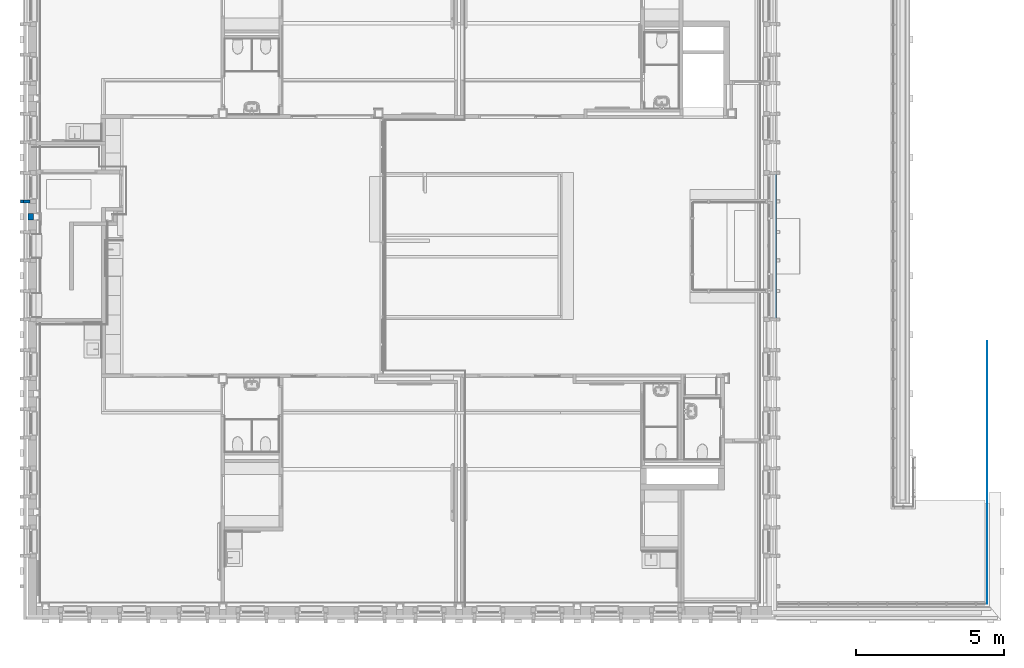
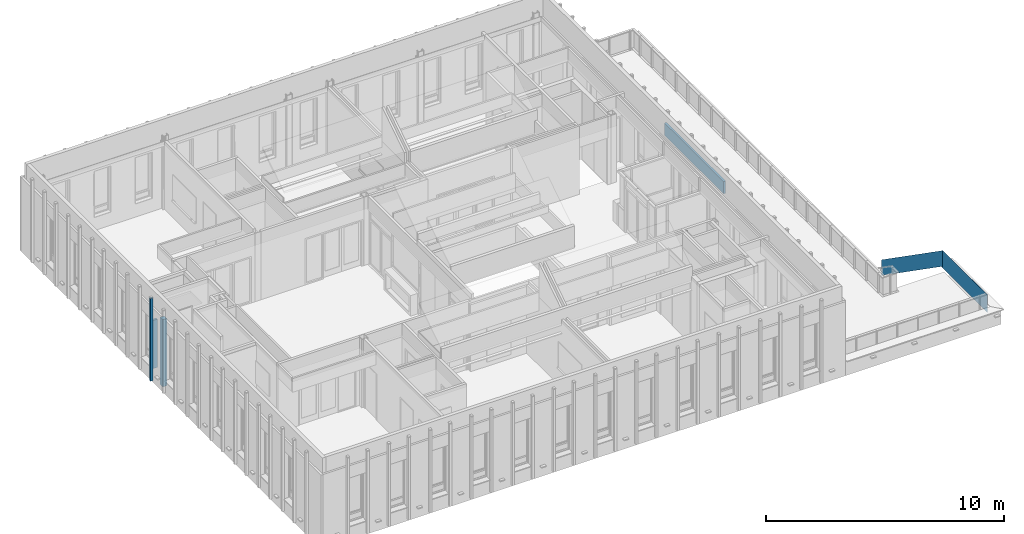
# One storey, part 47 of 118: 6 walls, 10 openings.
"""IFC2X3 building model written with IfcOpenShell, lengths in millimetres."""

from ifc_helpers import new_model, entity, si_unit, converted_unit, derived_unit, direction, frame, frame_2d, origin, place, context, subcontext, project, spatial, polyline, rectangle, outline, extrude, clip, halfspace, faceted_brep, material, layer, layer_set, layer_usage, type_object, element, save


model = new_model("IFC2X3")

# Units and contexts
model_context = context("Model", 3, precision=0.01, world=origin(), true_north=direction((6.123031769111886e-17, 1.0)))
plan_context = context("Plan", 3, precision=0.01, world=origin(), true_north=direction((6.123031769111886e-17, 1.0)))
body_context = subcontext(model_context, "Body", "Model", "MODEL_VIEW")
ifc_project = project(units=[si_unit("LENGTHUNIT", "METRE", prefix="MILLI"), si_unit("AREAUNIT", "SQUARE_METRE"), si_unit("VOLUMEUNIT", "CUBIC_METRE"), converted_unit("PLANEANGLEUNIT", "DEGREE", entity("IfcRatioMeasure", 0.017453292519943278), si_unit("PLANEANGLEUNIT", "RADIAN"), dimensions=[0, 0, 0, 0, 0, 0, 0]), si_unit("MASSUNIT", "GRAM", prefix="KILO"), derived_unit("MASSDENSITYUNIT", [(si_unit("MASSUNIT", "GRAM", prefix="KILO"), 1), (si_unit("LENGTHUNIT", "METRE"), -3)]), derived_unit("IONCONCENTRATIONUNIT", [(si_unit("MASSUNIT", "GRAM", prefix="KILO"), 1), (si_unit("LENGTHUNIT", "METRE"), -3)]), derived_unit("MOMENTOFINERTIAUNIT", [(si_unit("LENGTHUNIT", "METRE"), 4)]), si_unit("TIMEUNIT", "SECOND"), si_unit("FREQUENCYUNIT", "HERTZ"), si_unit("THERMODYNAMICTEMPERATUREUNIT", "DEGREE_CELSIUS"), derived_unit("THERMALTRANSMITTANCEUNIT", [(si_unit("MASSUNIT", "GRAM", prefix="KILO"), 1), (si_unit("THERMODYNAMICTEMPERATUREUNIT", "KELVIN"), -1), (si_unit("TIMEUNIT", "SECOND"), -3)]), derived_unit("THERMALCONDUCTANCEUNIT", [(si_unit("MASSUNIT", "GRAM", prefix="KILO"), 1), (si_unit("THERMODYNAMICTEMPERATUREUNIT", "KELVIN"), -1), (si_unit("TIMEUNIT", "SECOND"), -3), (si_unit("LENGTHUNIT", "METRE"), 1)]), derived_unit("VOLUMETRICFLOWRATEUNIT", [(si_unit("LENGTHUNIT", "METRE"), 3), (si_unit("TIMEUNIT", "SECOND"), -1)]), derived_unit("MASSFLOWRATEUNIT", [(si_unit("MASSUNIT", "GRAM", prefix="KILO"), 1), (si_unit("TIMEUNIT", "SECOND"), -1)]), derived_unit("ROTATIONALFREQUENCYUNIT", [(si_unit("TIMEUNIT", "SECOND"), -1)]), si_unit("ELECTRICCURRENTUNIT", "AMPERE"), si_unit("ELECTRICVOLTAGEUNIT", "VOLT"), si_unit("POWERUNIT", "WATT"), si_unit("FORCEUNIT", "NEWTON", prefix="KILO"), si_unit("ILLUMINANCEUNIT", "LUX"), si_unit("LUMINOUSFLUXUNIT", "LUMEN"), si_unit("LUMINOUSINTENSITYUNIT", "CANDELA"), derived_unit("USERDEFINED", [(si_unit("MASSUNIT", "GRAM", prefix="KILO"), -1), (si_unit("LENGTHUNIT", "METRE"), -2), (si_unit("TIMEUNIT", "SECOND"), 3), (si_unit("LUMINOUSFLUXUNIT", "LUMEN"), 1)]), derived_unit("USERDEFINED", [(si_unit("MASSUNIT", "GRAM", prefix="KILO"), 1), (si_unit("TIMEUNIT", "SECOND"), -3), (si_unit("LENGTHUNIT", "METRE"), 3), (si_unit("ELECTRICCURRENTUNIT", "AMPERE"), -2)]), derived_unit("SOUNDPOWERUNIT", [(si_unit("MASSUNIT", "GRAM", prefix="KILO"), 1), (si_unit("TIMEUNIT", "SECOND"), -3), (si_unit("LENGTHUNIT", "METRE"), 2)]), derived_unit("SOUNDPRESSUREUNIT", [(si_unit("MASSUNIT", "GRAM", prefix="KILO"), 1), (si_unit("LENGTHUNIT", "METRE"), -1), (si_unit("TIMEUNIT", "SECOND"), -2)]), derived_unit("LINEARVELOCITYUNIT", [(si_unit("LENGTHUNIT", "METRE"), 1), (si_unit("TIMEUNIT", "SECOND"), -1)]), si_unit("PRESSUREUNIT", "PASCAL"), derived_unit("USERDEFINED", [(si_unit("MASSUNIT", "GRAM", prefix="KILO"), 1), (si_unit("LENGTHUNIT", "METRE"), -2), (si_unit("TIMEUNIT", "SECOND"), -2)]), derived_unit("LINEARFORCEUNIT", [(si_unit("MASSUNIT", "GRAM", prefix="KILO"), 1), (si_unit("TIMEUNIT", "SECOND"), -2)]), derived_unit("PLANARFORCEUNIT", [(si_unit("MASSUNIT", "GRAM", prefix="KILO"), 1), (si_unit("LENGTHUNIT", "METRE"), -1), (si_unit("TIMEUNIT", "SECOND"), -2)]), derived_unit("SPECIFICHEATCAPACITYUNIT", [(si_unit("THERMODYNAMICTEMPERATUREUNIT", "KELVIN"), -1), (si_unit("LENGTHUNIT", "METRE"), 2), (si_unit("TIMEUNIT", "SECOND"), -2)]), derived_unit("HEATINGVALUEUNIT", [(si_unit("LENGTHUNIT", "METRE"), 2), (si_unit("TIMEUNIT", "SECOND"), -2)]), derived_unit("VAPORPERMEABILITYUNIT", [(si_unit("LENGTHUNIT", "METRE"), -1), (si_unit("TIMEUNIT", "SECOND"), 1)]), derived_unit("DYNAMICVISCOSITYUNIT", [(si_unit("MASSUNIT", "GRAM", prefix="KILO"), 1), (si_unit("TIMEUNIT", "SECOND"), -1), (si_unit("LENGTHUNIT", "METRE"), -1)]), derived_unit("THERMALEXPANSIONCOEFFICIENTUNIT", [(si_unit("THERMODYNAMICTEMPERATUREUNIT", "KELVIN"), -1)]), derived_unit("MODULUSOFELASTICITYUNIT", [(si_unit("MASSUNIT", "GRAM", prefix="KILO"), 1), (si_unit("LENGTHUNIT", "METRE"), -1), (si_unit("TIMEUNIT", "SECOND"), -2)]), derived_unit("ISOTHERMALMOISTURECAPACITYUNIT", [(si_unit("LENGTHUNIT", "METRE"), 3), (si_unit("MASSUNIT", "GRAM", prefix="KILO"), -1)]), derived_unit("MOISTUREDIFFUSIVITYUNIT", [(si_unit("TIMEUNIT", "SECOND"), -1), (si_unit("LENGTHUNIT", "METRE"), 2)])], contexts=[model_context, plan_context])

# Site, building, storey
site_placement = place(None, origin())
site = spatial("IfcSite", under=ifc_project, at=site_placement, Name="Locatie", CompositionType="ELEMENT")
building_placement = place(site_placement, origin())
building = spatial("IfcBuilding", under=site, at=building_placement, Name="Bouwwerk", CompositionType="ELEMENT")
storey_placement = place(building_placement, frame((0.0, 0.0, 7800.0)))
storey = spatial("IfcBuildingStorey", under=building, at=storey_placement, Name="02 tweede verdieping", CompositionType="ELEMENT", Elevation=7800.000000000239)

# Walls
ifc_material_1 = material(Name="g2_metselwerk_geel licht")
ifc_layer_1 = layer(ifc_material_1, 100.0)
ifc_layer_set_1 = layer_set([ifc_layer_1], Name="Basic Wall:21_WA_metselwerk_licht_100_gen_bdg")
ifc_layer_usage_1 = layer_usage(ifc_layer_set_1, "AXIS2", "POSITIVE", -50.0)
wall_type_1 = type_object("IfcWallType", Name="Basic Wall:21_WA_metselwerk_licht_100_gen_bdg", PredefinedType="STANDARD", material=ifc_layer_set_1)
wall_1_placement = place(storey_placement, frame((9770.0, 23718.0, 603.0), z_axis=(0.0, 0.0, 1.0), x_axis=(-1.0, 0.0, 0.0)))
element("IfcWallStandardCase", 1, at=wall_1_placement, inside=storey, type_object=wall_type_1, material=ifc_layer_usage_1, Name="Basic Wall:21_WA_metselwerk_licht_100_gen_bdg", ObjectType="Basic Wall:21_WA_metselwerk_licht_100_gen_bdg", context=body_context, shape_type="SweptSolid", body=[
    extrude(rectangle(XDim=210.00000000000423, YDim=100.00000000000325, at=frame_2d((105.00000000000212, 1.0196288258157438e-12), x_axis=(-1.0, 0.0))), origin(), (0.0, 0.0, 1.0), 2471.999999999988),
])
wall_2_placement = place(storey_placement, frame((9560.0, 23718.0, 0.0), z_axis=(0.0, 0.0, 1.0), x_axis=(-1.0, 0.0, 0.0)))
element("IfcWallStandardCase", 2, at=wall_2_placement, inside=storey, type_object=wall_type_1, material=ifc_layer_usage_1, Name="Basic Wall:21_WA_metselwerk_licht_100_gen_bdg", ObjectType="Basic Wall:21_WA_metselwerk_licht_100_gen_bdg", context=body_context, shape_type="SweptSolid", body=[
    extrude(rectangle(XDim=114.99999999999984, YDim=100.00000000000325, at=frame_2d((57.49999999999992, 1.2434497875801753e-12), x_axis=(-1.0, 0.0))), origin(), (0.0, 0.0, 1.0), 4231.99999999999),
])

# Wall, openings
ifc_layer_usage_2 = layer_usage(ifc_layer_set_1, "AXIS2", "NEGATIVE", 50.0)
wall_3_placement = place(storey_placement, frame((34990.0, 24682.0, 3075.0), z_axis=(0.0, 0.0, 1.0), x_axis=(0.0, -1.0, 0.0)))
wall_3 = element("IfcWallStandardCase", 3, at=wall_3_placement, inside=storey, type_object=wall_type_1, material=ifc_layer_usage_2, Name="Basic Wall:21_WA_metselwerk_licht_100_gen_bdg", ObjectType="Basic Wall:21_WA_metselwerk_licht_100_gen_bdg", context=body_context, shape_type="SweptSolid", body=[
    extrude(rectangle(XDim=4964.000000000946, YDim=100.00000000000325, at=frame_2d((2482.000000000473, 3.979039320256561e-13), x_axis=(-1.0, 0.0))), origin(), (0.0, 0.0, 1.0), 625.0000000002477),
])
opening_1_placement = place(wall_3_placement, frame((5038.0, -390.0, -2889.0)))
element("IfcOpeningElement", 4, at=opening_1_placement, cuts=wall_3, Name="Basic Wall:21_WA_metselwerk_licht_100_gen_bdg", ObjectType="Opening", context=body_context, shape_type="Brep", body=[
    faceted_brep([(-24.0, 340.0, 2884.0), (-103.0, 340.0, 2884.0), (-103.0, 340.0, 42.0), (-5009.0, 340.0, 42.0), (-5009.0, 340.0, 2884.0), (-5088.0, 340.0, 2884.0), (-5088.0, 340.0, 0.0), (-24.0, 340.0, 0.0), (-5088.0, 640.0, 2884.0), (-24.0, 640.0, 2884.0), (-24.0, 640.0, 0.0), (-5088.0, 640.0, 0.0), (-5112.0, 25.0, 3011.0), (-5112.0, 25.0, 62.0), (0.0, 25.0, 62.0), (0.0, 25.0, 3011.0), (-4964.0, 25.0, 2860.0), (-148.0, 25.0, 2860.0), (-148.0, 25.0, 87.0), (-4964.0, 25.0, 87.0), (-5112.0, 300.0, 3011.0), (0.0, 300.0, 3011.0), (0.0, 300.0, 62.0), (-103.0, 300.0, 62.0), (-103.0, 300.0, 2925.0), (-5009.0, 300.0, 2925.0), (-5009.0, 300.0, 62.0), (-5112.0, 300.0, 62.0), (-103.0, 300.0, 42.0), (-5009.0, 300.0, 42.0), (-103.0, 340.0, 2925.0), (-5009.0, 340.0, 2925.0), (-4964.0, 0.0, 2860.0), (-4964.0, 0.0, 87.0), (-148.0, 0.0, 87.0), (-148.0, 0.0, 2860.0)], [[[0, 1, 2, 3, 4, 5, 6, 7]], [[8, 9, 10, 11]], [[5, 8, 11, 6]], [[6, 11, 10, 7]], [[7, 10, 9, 0]], [[8, 5, 4, 1, 0, 9]], [[12, 13, 14, 15], [16, 17, 18, 19]], [[20, 21, 22, 23, 24, 25, 26, 27]], [[12, 20, 27, 13]], [[13, 27, 26, 23, 22, 14]], [[14, 22, 21, 15]], [[15, 21, 20, 12]], [[28, 23, 26, 29]], [[30, 1, 4, 31]], [[29, 26, 25, 31, 4, 3]], [[29, 3, 2, 28]], [[2, 1, 30, 24, 23, 28]], [[31, 25, 24, 30]], [[32, 33, 34, 35]], [[32, 16, 19, 33]], [[33, 19, 18, 34]], [[34, 18, 17, 35]], [[35, 17, 16, 32]]]),
])
opening_2_placement = place(wall_3_placement, frame((13038.0, -565.0, -2472.0)))
element("IfcOpeningElement", 5, at=opening_2_placement, cuts=wall_3, Name="Basic Wall:21_WA_metselwerk_licht_100_gen_bdg", ObjectType="Opening", context=body_context, shape_type="Brep", body=[
    faceted_brep([(-24.0, 515.0, 2472.0), (-103.0, 515.0, 2472.0), (-103.0, 515.0, 42.0), (-1009.0, 515.0, 42.0), (-1009.0, 515.0, 2472.0), (-1088.0, 515.0, 2472.0), (-1088.0, 515.0, 0.0), (-24.0, 515.0, 0.0), (-1088.0, 615.0, 2472.0), (-24.0, 615.0, 2472.0), (-24.0, 615.0, 0.0), (-1088.0, 615.0, 0.0), (-1112.0, 200.0, 2594.0), (-1112.0, 200.0, 11.0), (0.0, 200.0, 11.0), (0.0, 200.0, 2594.0), (-964.0, 200.0, 2443.0), (-148.0, 200.0, 2443.0), (-148.0, 200.0, 87.0), (-964.0, 200.0, 87.0), (-1112.0, 475.0, 2594.0), (0.0, 475.0, 2594.0), (0.0, 475.0, 11.0), (-1112.0, 475.0, 11.0), (-1009.0, 475.0, 42.0), (-103.0, 475.0, 42.0), (-103.0, 475.0, 2508.0), (-1009.0, 475.0, 2508.0), (-103.0, 515.0, 2508.0), (-1009.0, 515.0, 2508.0), (-964.0, 0.0, 2443.0), (-964.0, 0.0, 87.0), (-148.0, 0.0, 87.0), (-148.0, 0.0, 2443.0)], [[[0, 1, 2, 3, 4, 5, 6, 7]], [[8, 9, 10, 11]], [[5, 8, 11, 6]], [[6, 11, 10, 7]], [[7, 10, 9, 0]], [[8, 5, 4, 1, 0, 9]], [[12, 13, 14, 15], [16, 17, 18, 19]], [[20, 21, 22, 23], [24, 25, 26, 27]], [[12, 20, 23, 13]], [[13, 23, 22, 14]], [[14, 22, 21, 15]], [[15, 21, 20, 12]], [[28, 1, 4, 29]], [[24, 27, 29, 4, 3]], [[3, 2, 25, 24]], [[2, 1, 28, 26, 25]], [[29, 27, 26, 28]], [[30, 31, 32, 33]], [[30, 16, 19, 31]], [[31, 19, 18, 32]], [[32, 18, 17, 33]], [[33, 17, 16, 30]]]),
])
opening_3_placement = place(wall_3_placement, frame((11038.0, -565.0, -2472.0)))
element("IfcOpeningElement", 6, at=opening_3_placement, cuts=wall_3, Name="Basic Wall:21_WA_metselwerk_licht_100_gen_bdg", ObjectType="Opening", context=body_context, shape_type="Brep", body=[
    faceted_brep([(-24.0, 515.0, 2472.0), (-103.0, 515.0, 2472.0), (-103.0, 515.0, 42.0), (-1009.0, 515.0, 42.0), (-1009.0, 515.0, 2472.0), (-1088.0, 515.0, 2472.0), (-1088.0, 515.0, 0.0), (-24.0, 515.0, 0.0), (-1088.0, 615.0, 2472.0), (-24.0, 615.0, 2472.0), (-24.0, 615.0, 0.0), (-1088.0, 615.0, 0.0), (-1112.0, 200.0, 2594.0), (-1112.0, 200.0, 11.0), (0.0, 200.0, 11.0), (0.0, 200.0, 2594.0), (-964.0, 200.0, 2443.0), (-148.0, 200.0, 2443.0), (-148.0, 200.0, 87.0), (-964.0, 200.0, 87.0), (-1112.0, 475.0, 2594.0), (0.0, 475.0, 2594.0), (0.0, 475.0, 11.0), (-1112.0, 475.0, 11.0), (-1009.0, 475.0, 42.0), (-103.0, 475.0, 42.0), (-103.0, 475.0, 2508.0), (-1009.0, 475.0, 2508.0), (-103.0, 515.0, 2508.0), (-1009.0, 515.0, 2508.0), (-964.0, 0.0, 2443.0), (-964.0, 0.0, 87.0), (-148.0, 0.0, 87.0), (-148.0, 0.0, 2443.0)], [[[0, 1, 2, 3, 4, 5, 6, 7]], [[8, 9, 10, 11]], [[5, 8, 11, 6]], [[6, 11, 10, 7]], [[7, 10, 9, 0]], [[8, 5, 4, 1, 0, 9]], [[12, 13, 14, 15], [16, 17, 18, 19]], [[20, 21, 22, 23], [24, 25, 26, 27]], [[12, 20, 23, 13]], [[13, 23, 22, 14]], [[14, 22, 21, 15]], [[15, 21, 20, 12]], [[28, 1, 4, 29]], [[24, 27, 29, 4, 3]], [[3, 2, 25, 24]], [[2, 1, 28, 26, 25]], [[29, 27, 26, 28]], [[30, 31, 32, 33]], [[30, 16, 19, 31]], [[31, 19, 18, 32]], [[32, 18, 17, 33]], [[33, 17, 16, 30]]]),
])
opening_4_placement = place(wall_3_placement, frame((9038.0, -565.0, -2472.0)))
element("IfcOpeningElement", 7, at=opening_4_placement, cuts=wall_3, Name="Basic Wall:21_WA_metselwerk_licht_100_gen_bdg", ObjectType="Opening", context=body_context, shape_type="Brep", body=[
    faceted_brep([(-24.0, 515.0, 2472.0), (-103.0, 515.0, 2472.0), (-103.0, 515.0, 42.0), (-1009.0, 515.0, 42.0), (-1009.0, 515.0, 2472.0), (-1088.0, 515.0, 2472.0), (-1088.0, 515.0, 0.0), (-24.0, 515.0, 0.0), (-1088.0, 615.0, 2472.0), (-24.0, 615.0, 2472.0), (-24.0, 615.0, 0.0), (-1088.0, 615.0, 0.0), (-1112.0, 200.0, 2594.0), (-1112.0, 200.0, 11.0), (0.0, 200.0, 11.0), (0.0, 200.0, 2594.0), (-964.0, 200.0, 2443.0), (-148.0, 200.0, 2443.0), (-148.0, 200.0, 87.0), (-964.0, 200.0, 87.0), (-1112.0, 475.0, 2594.0), (0.0, 475.0, 2594.0), (0.0, 475.0, 11.0), (-1112.0, 475.0, 11.0), (-1009.0, 475.0, 42.0), (-103.0, 475.0, 42.0), (-103.0, 475.0, 2508.0), (-1009.0, 475.0, 2508.0), (-103.0, 515.0, 2508.0), (-1009.0, 515.0, 2508.0), (-964.0, 0.0, 2443.0), (-964.0, 0.0, 87.0), (-148.0, 0.0, 87.0), (-148.0, 0.0, 2443.0)], [[[0, 1, 2, 3, 4, 5, 6, 7]], [[8, 9, 10, 11]], [[5, 8, 11, 6]], [[6, 11, 10, 7]], [[7, 10, 9, 0]], [[8, 5, 4, 1, 0, 9]], [[12, 13, 14, 15], [16, 17, 18, 19]], [[20, 21, 22, 23], [24, 25, 26, 27]], [[12, 20, 23, 13]], [[13, 23, 22, 14]], [[14, 22, 21, 15]], [[15, 21, 20, 12]], [[28, 1, 4, 29]], [[24, 27, 29, 4, 3]], [[3, 2, 25, 24]], [[2, 1, 28, 26, 25]], [[29, 27, 26, 28]], [[30, 31, 32, 33]], [[30, 16, 19, 31]], [[31, 19, 18, 32]], [[32, 18, 17, 33]], [[33, 17, 16, 30]]]),
])
opening_5_placement = place(wall_3_placement, frame((7038.0, -565.0, -2472.0)))
element("IfcOpeningElement", 8, at=opening_5_placement, cuts=wall_3, Name="Basic Wall:21_WA_metselwerk_licht_100_gen_bdg", ObjectType="Opening", context=body_context, shape_type="Brep", body=[
    faceted_brep([(-24.0, 515.0, 2472.0), (-103.0, 515.0, 2472.0), (-103.0, 515.0, 42.0), (-1009.0, 515.0, 42.0), (-1009.0, 515.0, 2472.0), (-1088.0, 515.0, 2472.0), (-1088.0, 515.0, 0.0), (-24.0, 515.0, 0.0), (-1088.0, 615.0, 2472.0), (-24.0, 615.0, 2472.0), (-24.0, 615.0, 0.0), (-1088.0, 615.0, 0.0), (-1112.0, 200.0, 2594.0), (-1112.0, 200.0, 11.0), (0.0, 200.0, 11.0), (0.0, 200.0, 2594.0), (-964.0, 200.0, 2443.0), (-148.0, 200.0, 2443.0), (-148.0, 200.0, 87.0), (-964.0, 200.0, 87.0), (-1112.0, 475.0, 2594.0), (0.0, 475.0, 2594.0), (0.0, 475.0, 11.0), (-1112.0, 475.0, 11.0), (-1009.0, 475.0, 42.0), (-103.0, 475.0, 42.0), (-103.0, 475.0, 2508.0), (-1009.0, 475.0, 2508.0), (-103.0, 515.0, 2508.0), (-1009.0, 515.0, 2508.0), (-964.0, 0.0, 2443.0), (-964.0, 0.0, 87.0), (-148.0, 0.0, 87.0), (-148.0, 0.0, 2443.0)], [[[0, 1, 2, 3, 4, 5, 6, 7]], [[8, 9, 10, 11]], [[5, 8, 11, 6]], [[6, 11, 10, 7]], [[7, 10, 9, 0]], [[8, 5, 4, 1, 0, 9]], [[12, 13, 14, 15], [16, 17, 18, 19]], [[20, 21, 22, 23], [24, 25, 26, 27]], [[12, 20, 23, 13]], [[13, 23, 22, 14]], [[14, 22, 21, 15]], [[15, 21, 20, 12]], [[28, 1, 4, 29]], [[24, 27, 29, 4, 3]], [[3, 2, 25, 24]], [[2, 1, 28, 26, 25]], [[29, 27, 26, 28]], [[30, 31, 32, 33]], [[30, 16, 19, 31]], [[31, 19, 18, 32]], [[32, 18, 17, 33]], [[33, 17, 16, 30]]]),
])
opening_6_placement = place(wall_3_placement, frame((-962.0, -565.0, -2472.0)))
element("IfcOpeningElement", 9, at=opening_6_placement, cuts=wall_3, Name="Basic Wall:21_WA_metselwerk_licht_100_gen_bdg", ObjectType="Opening", context=body_context, shape_type="Brep", body=[
    faceted_brep([(-24.0, 515.0, 2472.0), (-103.0, 515.0, 2472.0), (-103.0, 515.0, 42.0), (-1009.0, 515.0, 42.0), (-1009.0, 515.0, 2472.0), (-1088.0, 515.0, 2472.0), (-1088.0, 515.0, 0.0), (-24.0, 515.0, 0.0), (-1088.0, 615.0, 2472.0), (-24.0, 615.0, 2472.0), (-24.0, 615.0, 0.0), (-1088.0, 615.0, 0.0), (-1112.0, 200.0, 2594.0), (-1112.0, 200.0, 11.0), (0.0, 200.0, 11.0), (0.0, 200.0, 2594.0), (-964.0, 200.0, 2443.0), (-148.0, 200.0, 2443.0), (-148.0, 200.0, 87.0), (-964.0, 200.0, 87.0), (-1112.0, 475.0, 2594.0), (0.0, 475.0, 2594.0), (0.0, 475.0, 11.0), (-1112.0, 475.0, 11.0), (-1009.0, 475.0, 42.0), (-103.0, 475.0, 42.0), (-103.0, 475.0, 2508.0), (-1009.0, 475.0, 2508.0), (-103.0, 515.0, 2508.0), (-1009.0, 515.0, 2508.0), (-964.0, 0.0, 2443.0), (-964.0, 0.0, 87.0), (-148.0, 0.0, 87.0), (-148.0, 0.0, 2443.0)], [[[0, 1, 2, 3, 4, 5, 6, 7]], [[8, 9, 10, 11]], [[5, 8, 11, 6]], [[6, 11, 10, 7]], [[7, 10, 9, 0]], [[8, 5, 4, 1, 0, 9]], [[12, 13, 14, 15], [16, 17, 18, 19]], [[20, 21, 22, 23], [24, 25, 26, 27]], [[12, 20, 23, 13]], [[13, 23, 22, 14]], [[14, 22, 21, 15]], [[15, 21, 20, 12]], [[28, 1, 4, 29]], [[24, 27, 29, 4, 3]], [[3, 2, 25, 24]], [[2, 1, 28, 26, 25]], [[29, 27, 26, 28]], [[30, 31, 32, 33]], [[30, 16, 19, 31]], [[31, 19, 18, 32]], [[32, 18, 17, 33]], [[33, 17, 16, 30]]]),
])
opening_7_placement = place(wall_3_placement, frame((-2962.0, -565.0, -2472.0)))
element("IfcOpeningElement", 10, at=opening_7_placement, cuts=wall_3, Name="Basic Wall:21_WA_metselwerk_licht_100_gen_bdg", ObjectType="Opening", context=body_context, shape_type="Brep", body=[
    faceted_brep([(-24.0, 515.0, 2472.0), (-103.0, 515.0, 2472.0), (-103.0, 515.0, 42.0), (-1009.0, 515.0, 42.0), (-1009.0, 515.0, 2472.0), (-1088.0, 515.0, 2472.0), (-1088.0, 515.0, 0.0), (-24.0, 515.0, 0.0), (-1088.0, 615.0, 2472.0), (-24.0, 615.0, 2472.0), (-24.0, 615.0, 0.0), (-1088.0, 615.0, 0.0), (-1112.0, 200.0, 2594.0), (-1112.0, 200.0, 11.0), (0.0, 200.0, 11.0), (0.0, 200.0, 2594.0), (-964.0, 200.0, 2443.0), (-148.0, 200.0, 2443.0), (-148.0, 200.0, 87.0), (-964.0, 200.0, 87.0), (-1112.0, 475.0, 2594.0), (0.0, 475.0, 2594.0), (0.0, 475.0, 11.0), (-1112.0, 475.0, 11.0), (-1009.0, 475.0, 42.0), (-103.0, 475.0, 42.0), (-103.0, 475.0, 2508.0), (-1009.0, 475.0, 2508.0), (-103.0, 515.0, 2508.0), (-1009.0, 515.0, 2508.0), (-964.0, 0.0, 2443.0), (-964.0, 0.0, 87.0), (-148.0, 0.0, 87.0), (-148.0, 0.0, 2443.0)], [[[0, 1, 2, 3, 4, 5, 6, 7]], [[8, 9, 10, 11]], [[5, 8, 11, 6]], [[6, 11, 10, 7]], [[7, 10, 9, 0]], [[8, 5, 4, 1, 0, 9]], [[12, 13, 14, 15], [16, 17, 18, 19]], [[20, 21, 22, 23], [24, 25, 26, 27]], [[12, 20, 23, 13]], [[13, 23, 22, 14]], [[14, 22, 21, 15]], [[15, 21, 20, 12]], [[28, 1, 4, 29]], [[24, 27, 29, 4, 3]], [[3, 2, 25, 24]], [[2, 1, 28, 26, 25]], [[29, 27, 26, 28]], [[30, 31, 32, 33]], [[30, 16, 19, 31]], [[31, 19, 18, 32]], [[32, 18, 17, 33]], [[33, 17, 16, 30]]]),
])
opening_8_placement = place(wall_3_placement, frame((-4962.0, -565.0, -2472.0)))
element("IfcOpeningElement", 11, at=opening_8_placement, cuts=wall_3, Name="Basic Wall:21_WA_metselwerk_licht_100_gen_bdg", ObjectType="Opening", context=body_context, shape_type="Brep", body=[
    faceted_brep([(-24.0, 515.0, 2472.0), (-103.0, 515.0, 2472.0), (-103.0, 515.0, 42.0), (-1009.0, 515.0, 42.0), (-1009.0, 515.0, 2472.0), (-1088.0, 515.0, 2472.0), (-1088.0, 515.0, 0.0), (-24.0, 515.0, 0.0), (-1088.0, 615.0, 2472.0), (-24.0, 615.0, 2472.0), (-24.0, 615.0, 0.0), (-1088.0, 615.0, 0.0), (-1112.0, 200.0, 2594.0), (-1112.0, 200.0, 11.0), (0.0, 200.0, 11.0), (0.0, 200.0, 2594.0), (-964.0, 200.0, 2443.0), (-148.0, 200.0, 2443.0), (-148.0, 200.0, 87.0), (-964.0, 200.0, 87.0), (-1112.0, 475.0, 2594.0), (0.0, 475.0, 2594.0), (0.0, 475.0, 11.0), (-1112.0, 475.0, 11.0), (-1009.0, 475.0, 42.0), (-103.0, 475.0, 42.0), (-103.0, 475.0, 2508.0), (-1009.0, 475.0, 2508.0), (-103.0, 515.0, 2508.0), (-1009.0, 515.0, 2508.0), (-964.0, 0.0, 2443.0), (-964.0, 0.0, 87.0), (-148.0, 0.0, 87.0), (-148.0, 0.0, 2443.0)], [[[0, 1, 2, 3, 4, 5, 6, 7]], [[8, 9, 10, 11]], [[5, 8, 11, 6]], [[6, 11, 10, 7]], [[7, 10, 9, 0]], [[8, 5, 4, 1, 0, 9]], [[12, 13, 14, 15], [16, 17, 18, 19]], [[20, 21, 22, 23], [24, 25, 26, 27]], [[12, 20, 23, 13]], [[13, 23, 22, 14]], [[14, 22, 21, 15]], [[15, 21, 20, 12]], [[28, 1, 4, 29]], [[24, 27, 29, 4, 3]], [[3, 2, 25, 24]], [[2, 1, 28, 26, 25]], [[29, 27, 26, 28]], [[30, 31, 32, 33]], [[30, 16, 19, 31]], [[31, 19, 18, 32]], [[32, 18, 17, 33]], [[33, 17, 16, 30]]]),
])
opening_9_placement = place(wall_3_placement, frame((-6962.0, -565.0, -2472.0)))
element("IfcOpeningElement", 12, at=opening_9_placement, cuts=wall_3, Name="Basic Wall:21_WA_metselwerk_licht_100_gen_bdg", ObjectType="Opening", context=body_context, shape_type="Brep", body=[
    faceted_brep([(-24.0, 515.0, 2472.0), (-103.0, 515.0, 2472.0), (-103.0, 515.0, 42.0), (-1009.0, 515.0, 42.0), (-1009.0, 515.0, 2472.0), (-1088.0, 515.0, 2472.0), (-1088.0, 515.0, 0.0), (-24.0, 515.0, 0.0), (-1088.0, 615.0, 2472.0), (-24.0, 615.0, 2472.0), (-24.0, 615.0, 0.0), (-1088.0, 615.0, 0.0), (-1112.0, 200.0, 2594.0), (-1112.0, 200.0, 11.0), (0.0, 200.0, 11.0), (0.0, 200.0, 2594.0), (-964.0, 200.0, 2443.0), (-148.0, 200.0, 2443.0), (-148.0, 200.0, 87.0), (-964.0, 200.0, 87.0), (-1112.0, 475.0, 2594.0), (0.0, 475.0, 2594.0), (0.0, 475.0, 11.0), (-1112.0, 475.0, 11.0), (-1009.0, 475.0, 42.0), (-103.0, 475.0, 42.0), (-103.0, 475.0, 2508.0), (-1009.0, 475.0, 2508.0), (-103.0, 515.0, 2508.0), (-1009.0, 515.0, 2508.0), (-964.0, 0.0, 2443.0), (-964.0, 0.0, 87.0), (-148.0, 0.0, 87.0), (-148.0, 0.0, 2443.0)], [[[0, 1, 2, 3, 4, 5, 6, 7]], [[8, 9, 10, 11]], [[5, 8, 11, 6]], [[6, 11, 10, 7]], [[7, 10, 9, 0]], [[8, 5, 4, 1, 0, 9]], [[12, 13, 14, 15], [16, 17, 18, 19]], [[20, 21, 22, 23], [24, 25, 26, 27]], [[12, 20, 23, 13]], [[13, 23, 22, 14]], [[14, 22, 21, 15]], [[15, 21, 20, 12]], [[28, 1, 4, 29]], [[24, 27, 29, 4, 3]], [[3, 2, 25, 24]], [[2, 1, 28, 26, 25]], [[29, 27, 26, 28]], [[30, 31, 32, 33]], [[30, 16, 19, 31]], [[31, 19, 18, 32]], [[32, 18, 17, 33]], [[33, 17, 16, 30]]]),
])

# Wall
ifc_material_2 = material(Name="n7_isolatie_Resol")
ifc_layer_2 = layer(ifc_material_2, 200.0)
ifc_layer_set_2 = layer_set([ifc_layer_2], Name="Basic Wall:NLRS_22_WA_HSB bispouw 200_gen_ISR")
ifc_layer_usage_3 = layer_usage(ifc_layer_set_2, "AXIS2", "NEGATIVE", 100.0)
wall_type_2 = type_object("IfcWallType", Name="Basic Wall:NLRS_22_WA_HSB bispouw 200_gen_ISR", PredefinedType="STANDARD", material=ifc_layer_set_2)
wall_4_placement = place(storey_placement, frame((9800.0, 23090.0, -30.0), z_axis=(0.0, 0.0, 1.0), x_axis=(0.0, 1.0, 0.0)))
element("IfcWallStandardCase", 13, at=wall_4_placement, inside=storey, type_object=wall_type_2, material=ifc_layer_usage_3, Name="Basic Wall:NLRS_22_WA_HSB bispouw 200_gen_ISR", ObjectType="Basic Wall:NLRS_22_WA_HSB bispouw 200_gen_ISR", context=body_context, shape_type="SweptSolid", body=[
    extrude(rectangle(XDim=220.00000000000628, YDim=199.99999999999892, at=frame_2d((110.00000000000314, -1.0658141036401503e-13), x_axis=(-1.0, 0.0))), origin(), (0.0, 0.0, 1.0), 3440.0000000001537),
])

# Wall, opening
ifc_material_3 = material(Name="ISR_RVS_Carlstahl")
ifc_layer_3 = layer(ifc_material_3, 2.0)
ifc_layer_set_3 = layer_set([ifc_layer_3], Name="Basic Wall:NLRS_20_WA_RVS Carlstahl 2 TRANS")
ifc_layer_usage_4 = layer_usage(ifc_layer_set_3, "AXIS2", "NEGATIVE", 1.0)
wall_type_3 = type_object("IfcWallType", Name="Basic Wall:NLRS_20_WA_RVS Carlstahl 2 TRANS", PredefinedType="STANDARD", material=ifc_layer_set_3)
wall_5_placement = place(storey_placement, frame((42179.0, 18985.0, -3198.1466102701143), z_axis=(0.0, 0.0, 1.0), x_axis=(0.0, -1.0, 0.0)))
wall_5 = element("IfcWallStandardCase", 14, at=wall_5_placement, inside=storey, type_object=wall_type_3, material=ifc_layer_usage_4, Name="Basic Wall:NLRS_20_WA_RVS Carlstahl 2 TRANS", ObjectType="Basic Wall:NLRS_20_WA_RVS Carlstahl 2 TRANS", context=body_context, shape_type="Clipping", body=[
    clip(clip(extrude(rectangle(XDim=5120.000000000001, YDim=1.9999999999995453, at=frame_2d((2560.0000000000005, -8.43769498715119e-15), x_axis=(-1.0, 0.0))), origin(), (0.0, 0.0, 1.0), 4380.569726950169), halfspace(frame((0.0, -1.0, 805.0092873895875), z_axis=(-0.5725549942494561, 0.0, 0.8198663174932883), x_axis=(0.0, 1.0, 0.0)), False)), halfspace(frame((5120.0, 0.0, 3498.146610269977), z_axis=(0.564133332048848, 0.0, -0.825683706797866), x_axis=(0.0, -1.0, 0.0)), False)),
])
opening_10_placement = place(wall_5_placement, origin())
element("IfcOpeningElement", 15, at=opening_10_placement, cuts=wall_5, Name="Basic Wall:NLRS_20_WA_RVS Carlstahl 2 TRANS", ObjectType="Opening", context=body_context, shape_type="SweptSolid", body=[
    extrude(outline(polyline([(-1743.6174060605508, -1166.0488700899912), (-1632.7651878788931, -1166.0488700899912), (3376.3825939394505, 2332.0977401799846), (-1743.6174060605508, -1166.0488700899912)])), frame((3376.3825939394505, 1.0, 2332.0977401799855), z_axis=(0.0, -1.0, 0.0), x_axis=(-1.0, 0.0, 0.0)), (0.0, 0.0, 1.0), 2.0),
])

# Wall
wall_6_placement = place(storey_placement, frame((42179.0, 13865.0, 300.0), z_axis=(0.0, 0.0, 1.0), x_axis=(0.0, -1.0, 0.0)))
element("IfcWallStandardCase", 16, at=wall_6_placement, inside=storey, type_object=wall_type_3, material=ifc_layer_usage_4, Name="Basic Wall:NLRS_20_WA_RVS Carlstahl 2 TRANS", ObjectType="Basic Wall:NLRS_20_WA_RVS Carlstahl 2 TRANS", context=body_context, shape_type="Clipping", body=[
    clip(extrude(rectangle(XDim=3769.9999999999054, YDim=1.9999999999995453, at=frame_2d((1884.9999999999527, -7.046585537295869e-13), x_axis=(-1.0, 0.0))), origin(), (0.0, 0.0, 1.0), 900.0000000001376), halfspace(frame((0.0, -1.0, 882.4231166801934), z_axis=(-0.5725549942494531, 0.0, 0.8198663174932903), x_axis=(0.0, 1.0, 0.0)), False)),
])

save(model, "model.ifc")
